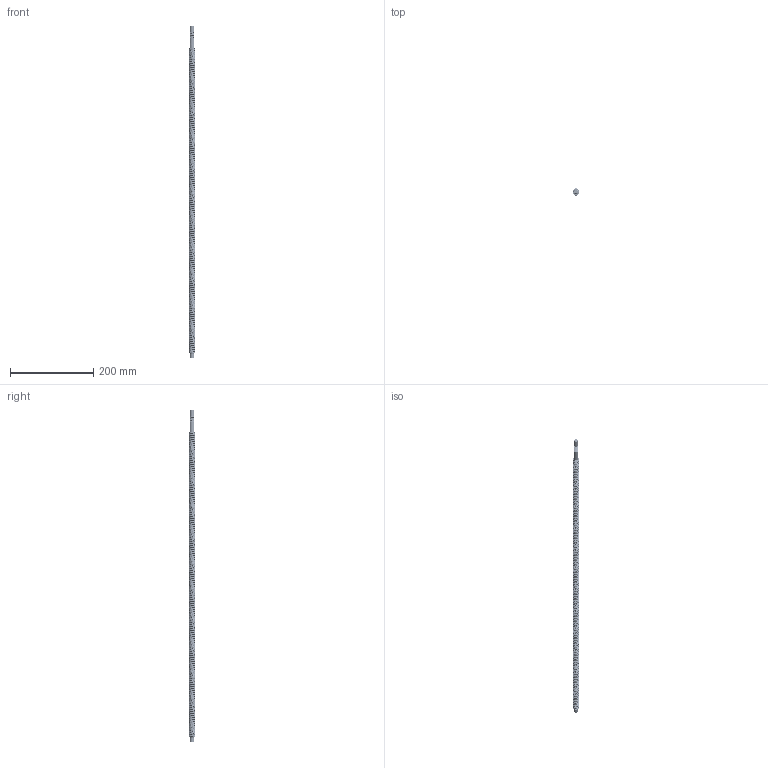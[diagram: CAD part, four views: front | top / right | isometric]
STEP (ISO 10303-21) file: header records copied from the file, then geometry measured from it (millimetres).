
FILE_DESCRIPTION (( 'STEP AP214' ), '1' );
FILE_NAME ('SFU1605-800.STEP', '2018-03-24T10:13:28', ( '' ), ( '' ), 'SwSTEP 2.0', 'SolidWorks 2017', '' );
FILE_SCHEMA (( 'AUTOMOTIVE_DESIGN' ));
Length unit declared in the file: millimetre
Products named in the file (1): SFU1605-800
Bounding box: 16 x 16 x 800 mm (x, y, z)
Volume: 131713.3 mm3; surface area: 48603.4 mm2
Topology: 1 solids, 1 shells, 665 faces, 1957 edges, 1299 vertices
Faces by surface type: cylinder 627, bspline 11, torus 10, plane 10, cone 7
Entity records: 94898 total; most frequent: CARTESIAN_POINT 80940, ORIENTED_EDGE 3914, DIRECTION 2044, EDGE_CURVE 1957, VERTEX_POINT 1299, AXIS2_PLACEMENT_3D 704, EDGE_LOOP 670, ADVANCED_FACE 665
